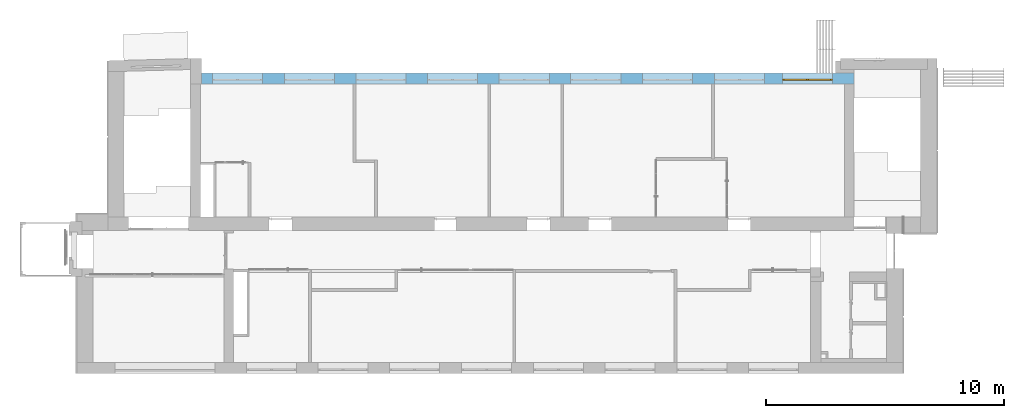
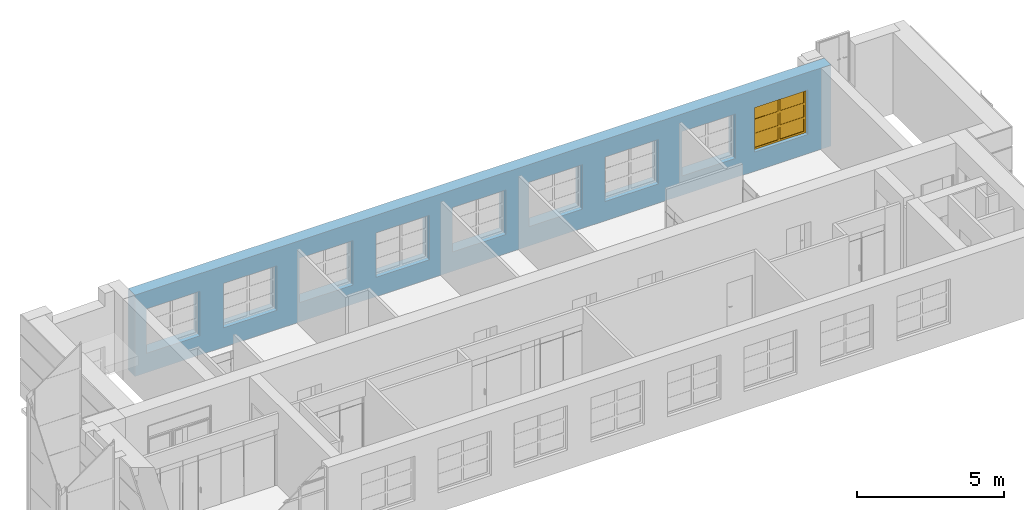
# One storey, part 55 of 66: 1 window, 9 openings, plus 1 element that does not belong to this part.
"""IFC2X3 building model written with IfcOpenShell, lengths in millimetres."""

from ifc_helpers import new_model, entity, si_unit, converted_unit, derived_unit, direction, frame, frame_2d, origin, origin_2d_with_axis, place, context, subcontext, project, spatial, rectangle, extrude, face_set, surface_model, source, transform, mapped, material, material_list, layer, layer_set, layer_usage, type_object, type_shapes, element, fill, save


model = new_model("IFC2X3")

# Units and contexts
model_context = context("Model", 3, precision=0.01, world=origin(), true_north=direction((6.12303176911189e-17, 1.0)))
body_context = subcontext(model_context, "Body", "Model", "MODEL_VIEW")
ifc_project = project(units=[si_unit("LENGTHUNIT", "METRE", prefix="MILLI"), si_unit("AREAUNIT", "SQUARE_METRE"), si_unit("VOLUMEUNIT", "CUBIC_METRE"), converted_unit("PLANEANGLEUNIT", "DEGREE", entity("IfcRatioMeasure", 0.0174532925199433), si_unit("PLANEANGLEUNIT", "RADIAN"), dimensions=[0, 0, 0, 0, 0, 0, 0]), si_unit("MASSUNIT", "GRAM", prefix="KILO"), derived_unit("MASSDENSITYUNIT", [(si_unit("MASSUNIT", "GRAM", prefix="KILO"), 1), (si_unit("LENGTHUNIT", "METRE"), -3)]), si_unit("TIMEUNIT", "SECOND"), si_unit("FREQUENCYUNIT", "HERTZ"), si_unit("THERMODYNAMICTEMPERATUREUNIT", "DEGREE_CELSIUS"), derived_unit("THERMALTRANSMITTANCEUNIT", [(si_unit("MASSUNIT", "GRAM", prefix="KILO"), 1), (si_unit("THERMODYNAMICTEMPERATUREUNIT", "KELVIN"), -1), (si_unit("TIMEUNIT", "SECOND"), -3)]), derived_unit("VOLUMETRICFLOWRATEUNIT", [(si_unit("LENGTHUNIT", "METRE"), 3), (si_unit("TIMEUNIT", "SECOND"), -1)]), si_unit("ELECTRICCURRENTUNIT", "AMPERE"), si_unit("ELECTRICVOLTAGEUNIT", "VOLT"), si_unit("POWERUNIT", "WATT"), si_unit("FORCEUNIT", "NEWTON", prefix="KILO"), si_unit("ILLUMINANCEUNIT", "LUX"), si_unit("LUMINOUSFLUXUNIT", "LUMEN"), si_unit("LUMINOUSINTENSITYUNIT", "CANDELA"), derived_unit("USERDEFINED", [(si_unit("MASSUNIT", "GRAM", prefix="KILO"), -1), (si_unit("LENGTHUNIT", "METRE"), -2), (si_unit("TIMEUNIT", "SECOND"), 3), (si_unit("LUMINOUSFLUXUNIT", "LUMEN"), 1)]), derived_unit("LINEARVELOCITYUNIT", [(si_unit("LENGTHUNIT", "METRE"), 1), (si_unit("TIMEUNIT", "SECOND"), -1)]), si_unit("PRESSUREUNIT", "PASCAL"), derived_unit("USERDEFINED", [(si_unit("LENGTHUNIT", "METRE"), -2), (si_unit("MASSUNIT", "GRAM", prefix="KILO"), 1), (si_unit("TIMEUNIT", "SECOND"), -2)])], contexts=[model_context])

# Site, building, storey
site_placement = place(None, frame((-151.875543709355, 2715.0, 0.0)))
site = spatial("IfcSite", under=ifc_project, at=site_placement, Name="Surface", CompositionType="ELEMENT")
building_placement = place(site_placement, origin())
building = spatial("IfcBuilding", under=site, at=building_placement, CompositionType="ELEMENT")
storey_placement = place(building_placement, frame((0.0, 0.0, 3350.0)))
storey = spatial("IfcBuildingStorey", under=building, at=storey_placement, Name="2 korrus", CompositionType="ELEMENT", Elevation=3350.00000000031)

# Wall, openings, window
ifc_material_1 = material(Name="Brick, Common")
ifc_layer_1 = layer(ifc_material_1, 440.0)
ifc_material_2 = material(Name="__Kips GN13_tava")
ifc_layer_2 = layer(ifc_material_2, 20.0)
ifc_layer_set = layer_set([ifc_layer_1, ifc_layer_2], Name="Basic Wall:VS-1")
ifc_layer_usage = layer_usage(ifc_layer_set, "AXIS2", "POSITIVE", -230.0)
wall_type = type_object("IfcWallType", Name="Basic Wall:VS-1", PredefinedType="STANDARD", material=ifc_layer_set)
wall_placement = place(storey_placement, frame((32372.6162682, 12380.0, 0.0), z_axis=(0.0, 0.0, 1.0), x_axis=(-1.0, 0.0, 0.0)))
wall = element("IfcWallStandardCase", 1, at=wall_placement, inside=storey, type_object=wall_type, material=ifc_layer_usage, Name="SEIN - 005", ObjectType="Basic Wall:VS-1", context=body_context, shape_type="SweptSolid", body=[
    extrude(rectangle(XDim=27372.5418693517, YDim=459.999999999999, at=frame_2d((13686.2709346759, 0.0), x_axis=(-1.0, 0.0))), origin(), (0.0, 0.0, 1.0), 3380.43203354),
])
opening_1_placement = place(wall_placement, frame((32372.6162682, 12380.0, 0.0), z_axis=(0.0, 0.0, 1.0), x_axis=(-1.0, 0.0, 0.0)))
element("IfcOpeningElement", 2, at=opening_1_placement, cuts=wall, Name="SEIN - 005", ObjectType="Opening", context=body_context, shape_type="SweptSolid", body=[
    extrude(rectangle(XDim=1850.0, YDim=2100.0, at=frame_2d((0.0, -5.6843418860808e-13), x_axis=(1.0, 0.0))), frame((6512.84935535, 13077.9, 1725.0), z_axis=(0.0, -1.0, 0.0), x_axis=(0.0, 0.0, 1.0)), (0.0, 0.0, 1.0), 1393.8),
])
opening_2_placement = place(wall_placement, frame((32372.6162682, 12380.0, 0.0), z_axis=(0.0, 0.0, 1.0), x_axis=(-1.0, 0.0, 0.0)))
element("IfcOpeningElement", 3, at=opening_2_placement, cuts=wall, Name="SEIN - 005", ObjectType="Opening", context=body_context, shape_type="SweptSolid", body=[
    extrude(rectangle(XDim=1850.0, YDim=2100.0, at=frame_2d((0.0, -1.02318153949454e-12), x_axis=(1.0, 0.0))), frame((9532.84935535, 13077.9, 1725.0), z_axis=(0.0, -1.0, 0.0), x_axis=(0.0, 0.0, 1.0)), (0.0, 0.0, 1.0), 1393.8),
])
opening_3_placement = place(wall_placement, frame((32372.6162682, 12380.0, 0.0), z_axis=(0.0, 0.0, 1.0), x_axis=(-1.0, 0.0, 0.0)))
element("IfcOpeningElement", 4, at=opening_3_placement, cuts=wall, Name="SEIN - 005", ObjectType="Opening", context=body_context, shape_type="SweptSolid", body=[
    extrude(rectangle(XDim=1850.0, YDim=2100.0, at=origin_2d_with_axis()), frame((12532.84935535, 13077.9, 1725.0), z_axis=(0.0, -1.0, 0.0), x_axis=(0.0, 0.0, 1.0)), (0.0, 0.0, 1.0), 1393.8),
])
opening_4_placement = place(wall_placement, frame((32372.6162682, 12380.0, 0.0), z_axis=(0.0, 0.0, 1.0), x_axis=(-1.0, 0.0, 0.0)))
element("IfcOpeningElement", 5, at=opening_4_placement, cuts=wall, Name="SEIN - 005", ObjectType="Opening", context=body_context, shape_type="SweptSolid", body=[
    extrude(rectangle(XDim=1850.0, YDim=2100.0, at=origin_2d_with_axis()), frame((15532.84935531, 13077.9, 1725.0), z_axis=(0.0, -1.0, 0.0), x_axis=(0.0, 0.0, 1.0)), (0.0, 0.0, 1.0), 1393.8),
])
opening_5_placement = place(wall_placement, frame((32372.6162682, 12380.0, 0.0), z_axis=(0.0, 0.0, 1.0), x_axis=(-1.0, 0.0, 0.0)))
element("IfcOpeningElement", 6, at=opening_5_placement, cuts=wall, Name="SEIN - 005", ObjectType="Opening", context=body_context, shape_type="SweptSolid", body=[
    extrude(rectangle(XDim=1850.0, YDim=2100.0, at=origin_2d_with_axis()), frame((18542.84935531, 13077.9, 1725.0), z_axis=(0.0, -1.0, 0.0), x_axis=(0.0, 0.0, 1.0)), (0.0, 0.0, 1.0), 1393.8),
])
opening_6_placement = place(wall_placement, frame((32372.6162682, 12380.0, 0.0), z_axis=(0.0, 0.0, 1.0), x_axis=(-1.0, 0.0, 0.0)))
element("IfcOpeningElement", 7, at=opening_6_placement, cuts=wall, Name="SEIN - 005", ObjectType="Opening", context=body_context, shape_type="SweptSolid", body=[
    extrude(rectangle(XDim=1850.0, YDim=2100.0, at=origin_2d_with_axis()), frame((21543.05309771, 13077.9, 1725.0), z_axis=(0.0, -1.0, 0.0), x_axis=(0.0, 0.0, 1.0)), (0.0, 0.0, 1.0), 1393.8),
])
opening_7_placement = place(wall_placement, frame((32372.6162682, 12380.0, 0.0), z_axis=(0.0, 0.0, 1.0), x_axis=(-1.0, 0.0, 0.0)))
element("IfcOpeningElement", 8, at=opening_7_placement, cuts=wall, Name="SEIN - 005", ObjectType="Opening", context=body_context, shape_type="SweptSolid", body=[
    extrude(rectangle(XDim=1850.0, YDim=2100.0, at=origin_2d_with_axis()), frame((24543.05309771, 13077.9, 1725.0), z_axis=(0.0, -1.0, 0.0), x_axis=(0.0, 0.0, 1.0)), (0.0, 0.0, 1.0), 1393.8),
])
opening_8_placement = place(wall_placement, frame((32372.6162682, 12380.0, 0.0), z_axis=(0.0, 0.0, 1.0), x_axis=(-1.0, 0.0, 0.0)))
element("IfcOpeningElement", 9, at=opening_8_placement, cuts=wall, Name="SEIN - 005", ObjectType="Opening", context=body_context, shape_type="SweptSolid", body=[
    extrude(rectangle(XDim=1850.0, YDim=2100.0, at=frame_2d((0.0, 4.32009983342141e-12), x_axis=(1.0, 0.0))), frame((27563.05309771, 13077.9, 1725.0), z_axis=(0.0, -1.0, 0.0), x_axis=(0.0, 0.0, 1.0)), (0.0, 0.0, 1.0), 1393.8),
])
opening_9_placement = place(wall_placement, frame((32372.6162682, 12380.0, 0.0), z_axis=(0.0, 0.0, 1.0), x_axis=(-1.0, 0.0, 0.0)))
opening_9 = element("IfcOpeningElement", 10, at=opening_9_placement, cuts=wall, Name="SEIN - 005", ObjectType="Opening", context=body_context, shape_type="SweptSolid", body=[
    extrude(rectangle(XDim=1850.0, YDim=2100.0, at=origin_2d_with_axis()), frame((30412.57293081, 13077.9, 1725.0), z_axis=(0.0, -1.0, 0.0), x_axis=(0.0, 0.0, 1.0)), (0.0, 0.0, 1.0), 1393.8),
])
ifc_material_3 = material(Name="Paint - Titanium White")
ifc_material_4 = material(Name="Paint - Dark Gray")
ifc_material_5 = material(Name="Glass - Clear Fast")
ifc_material_list_1 = material_list([ifc_material_3, ifc_material_4, ifc_material_5])
ifc_material_list_2 = material_list([ifc_material_3, ifc_material_4, ifc_material_5])
window_style = type_object("IfcWindowStyle", Name="Aken_1850x2100", ConstructionType="NOTDEFINED", OperationType="DOUBLE_PANEL_VERTICAL", ParameterTakesPrecedence=False, Sizeable=False, material=ifc_material_list_2)
shared_shape = source(origin(), body_context, "Body", "SurfaceModel", [
    surface_model("IfcFaceBasedSurfaceModel", [(80.0, -665.9, 1770.0), (80.0, -620.9, 1770.0), (0.0, -620.9, 1770.0), (0.0, -665.9, 1770.0), (80.0, -665.9, 80.0), (80.0, -620.9, 80.0), (80.0, -620.9, 1770.0), (80.0, -665.9, 1770.0), (80.0, -620.9, 1770.0), (80.0, -620.9, 80.0), (0.0, -620.9, 80.0), (0.0, -620.9, 1770.0), (0.0, -665.9, 1770.0), (0.0, -620.9, 1770.0), (0.0, -620.9, 80.0), (0.0, -665.9, 80.0), (80.0, -665.9, 1770.0), (0.0, -665.9, 1770.0), (0.0, -665.9, 80.0), (80.0, -665.9, 80.0), (0.0, -665.9, 80.0), (0.0, -620.9, 80.0), (80.0, -620.9, 80.0), (80.0, -665.9, 80.0), (2020.0, -665.9, 80.0), (2020.0, -620.9, 80.0), (2100.0, -620.9, 80.0), (2100.0, -665.9, 80.0), (2020.0, -665.9, 1770.0), (2020.0, -620.9, 1770.0), (2020.0, -620.9, 80.0), (2020.0, -665.9, 80.0), (2020.0, -620.9, 80.0), (2020.0, -620.9, 1770.0), (2100.0, -620.9, 1770.0), (2100.0, -620.9, 80.0), (2100.0, -665.9, 80.0), (2100.0, -620.9, 80.0), (2100.0, -620.9, 1770.0), (2100.0, -665.9, 1770.0), (2020.0, -665.9, 80.0), (2100.0, -665.9, 80.0), (2100.0, -665.9, 1770.0), (2020.0, -665.9, 1770.0), (2100.0, -665.9, 1770.0), (2100.0, -620.9, 1770.0), (2020.0, -620.9, 1770.0), (2020.0, -665.9, 1770.0), (1010.0, -665.9, 80.0), (1010.0, -620.9, 80.0), (1090.0, -620.9, 80.0), (1090.0, -665.9, 80.0), (1010.0, -665.9, 1770.0), (1010.0, -620.9, 1770.0), (1010.0, -620.9, 80.0), (1010.0, -665.9, 80.0), (1010.0, -620.9, 80.0), (1010.0, -620.9, 1770.0), (1090.0, -620.9, 1770.0), (1090.0, -620.9, 80.0), (1090.0, -665.9, 80.0), (1090.0, -620.9, 80.0), (1090.0, -620.9, 1770.0), (1090.0, -665.9, 1770.0), (1010.0, -665.9, 80.0), (1090.0, -665.9, 80.0), (1090.0, -665.9, 1770.0), (1010.0, -665.9, 1770.0), (1090.0, -665.9, 1770.0), (1090.0, -620.9, 1770.0), (1010.0, -620.9, 1770.0), (1010.0, -665.9, 1770.0), (80.0, -665.9, 80.0), (80.0, -620.9, 80.0), (0.0, -620.9, 80.0), (0.0, -665.9, 80.0), (1010.0, -665.9, 80.0), (1010.0, -620.9, 80.0), (80.0, -620.9, 80.0), (80.0, -665.9, 80.0), (80.0, -620.9, 80.0), (1010.0, -620.9, 80.0), (1090.0, -620.9, 80.0), (2020.0, -620.9, 80.0), (2100.0, -620.9, 80.0), (2100.0, -620.9, 0.0), (0.0, -620.9, 0.0), (0.0, -620.9, 80.0), (0.0, -665.9, 80.0), (0.0, -620.9, 80.0), (0.0, -620.9, 0.0), (0.0, -665.9, 0.0), (80.0, -665.9, 80.0), (0.0, -665.9, 80.0), (0.0, -665.9, 0.0), (2100.0, -665.9, 0.0), (2100.0, -665.9, 80.0), (2020.0, -665.9, 80.0), (1090.0, -665.9, 80.0), (1010.0, -665.9, 80.0), (1090.0, -665.9, 80.0), (1090.0, -620.9, 80.0), (1010.0, -620.9, 80.0), (1010.0, -665.9, 80.0), (2020.0, -665.9, 80.0), (2020.0, -620.9, 80.0), (1090.0, -620.9, 80.0), (1090.0, -665.9, 80.0), (2100.0, -665.9, 80.0), (2100.0, -620.9, 80.0), (2020.0, -620.9, 80.0), (2020.0, -665.9, 80.0), (2100.0, -665.9, 0.0), (2100.0, -620.9, 0.0), (2100.0, -620.9, 80.0), (2100.0, -665.9, 80.0), (0.0, -665.9, 0.0), (0.0, -620.9, 0.0), (2100.0, -620.9, 0.0), (2100.0, -665.9, 0.0), (1010.0, -665.9, 1770.0), (1010.0, -620.9, 1770.0), (1090.0, -620.9, 1770.0), (1090.0, -665.9, 1770.0), (80.0, -665.9, 1770.0), (80.0, -620.9, 1770.0), (1010.0, -620.9, 1770.0), (1010.0, -665.9, 1770.0), (1010.0, -620.9, 1770.0), (80.0, -620.9, 1770.0), (0.0, -620.9, 1770.0), (0.0, -620.9, 1850.0), (2100.0, -620.9, 1850.0), (2100.0, -620.9, 1770.0), (2020.0, -620.9, 1770.0), (1090.0, -620.9, 1770.0), (1090.0, -665.9, 1770.0), (1090.0, -620.9, 1770.0), (2020.0, -620.9, 1770.0), (2020.0, -665.9, 1770.0), (1010.0, -665.9, 1770.0), (1090.0, -665.9, 1770.0), (2020.0, -665.9, 1770.0), (2100.0, -665.9, 1770.0), (2100.0, -665.9, 1850.0), (0.0, -665.9, 1850.0), (0.0, -665.9, 1770.0), (80.0, -665.9, 1770.0), (0.0, -665.9, 1770.0), (0.0, -620.9, 1770.0), (80.0, -620.9, 1770.0), (80.0, -665.9, 1770.0), (0.0, -665.9, 1850.0), (0.0, -620.9, 1850.0), (0.0, -620.9, 1770.0), (0.0, -665.9, 1770.0), (2100.0, -665.9, 1850.0), (2100.0, -620.9, 1850.0), (0.0, -620.9, 1850.0), (0.0, -665.9, 1850.0), (2100.0, -665.9, 1770.0), (2100.0, -620.9, 1770.0), (2100.0, -620.9, 1850.0), (2100.0, -665.9, 1850.0), (2020.0, -665.9, 1770.0), (2020.0, -620.9, 1770.0), (2100.0, -620.9, 1770.0), (2100.0, -665.9, 1770.0), (80.0, -640.9, 590.0), (80.0, -630.9, 590.0), (1010.0, -630.9, 590.0), (1010.0, -640.9, 590.0), (80.0, -640.9, 670.0), (80.0, -630.9, 670.0), (80.0, -630.9, 590.0), (80.0, -640.9, 590.0), (80.0, -630.9, 590.0), (80.0, -630.9, 670.0), (1010.0, -630.9, 670.0), (1010.0, -630.9, 590.0), (1010.0, -640.9, 590.0), (1010.0, -630.9, 590.0), (1010.0, -630.9, 670.0), (1010.0, -640.9, 670.0), (80.0, -640.9, 590.0), (1010.0, -640.9, 590.0), (1010.0, -640.9, 670.0), (80.0, -640.9, 670.0), (1010.0, -640.9, 670.0), (1010.0, -630.9, 670.0), (80.0, -630.9, 670.0), (80.0, -640.9, 670.0), (80.0, -640.9, 1180.0), (80.0, -630.9, 1180.0), (1010.0, -630.9, 1180.0), (1010.0, -640.9, 1180.0), (80.0, -640.9, 1260.0), (80.0, -630.9, 1260.0), (80.0, -630.9, 1180.0), (80.0, -640.9, 1180.0), (80.0, -630.9, 1180.0), (80.0, -630.9, 1260.0), (1010.0, -630.9, 1260.0), (1010.0, -630.9, 1180.0), (1010.0, -640.9, 1180.0), (1010.0, -630.9, 1180.0), (1010.0, -630.9, 1260.0), (1010.0, -640.9, 1260.0), (80.0, -640.9, 1180.0), (1010.0, -640.9, 1180.0), (1010.0, -640.9, 1260.0), (80.0, -640.9, 1260.0), (1010.0, -640.9, 1260.0), (1010.0, -630.9, 1260.0), (80.0, -630.9, 1260.0), (80.0, -640.9, 1260.0), (1090.0, -640.9, 590.0), (1090.0, -630.9, 590.0), (2020.0, -630.9, 590.0), (2020.0, -640.9, 590.0), (1090.0, -640.9, 670.0), (1090.0, -630.9, 670.0), (1090.0, -630.9, 590.0), (1090.0, -640.9, 590.0), (1090.0, -630.9, 590.0), (1090.0, -630.9, 670.0), (2020.0, -630.9, 670.0), (2020.0, -630.9, 590.0), (2020.0, -640.9, 590.0), (2020.0, -630.9, 590.0), (2020.0, -630.9, 670.0), (2020.0, -640.9, 670.0), (1090.0, -640.9, 590.0), (2020.0, -640.9, 590.0), (2020.0, -640.9, 670.0), (1090.0, -640.9, 670.0), (2020.0, -640.9, 670.0), (2020.0, -630.9, 670.0), (1090.0, -630.9, 670.0), (1090.0, -640.9, 670.0), (1090.0, -640.9, 1180.0), (1090.0, -630.9, 1180.0), (2020.0, -630.9, 1180.0), (2020.0, -640.9, 1180.0), (1090.0, -640.9, 1260.0), (1090.0, -630.9, 1260.0), (1090.0, -630.9, 1180.0), (1090.0, -640.9, 1180.0), (1090.0, -630.9, 1180.0), (1090.0, -630.9, 1260.0), (2020.0, -630.9, 1260.0), (2020.0, -630.9, 1180.0), (2020.0, -640.9, 1180.0), (2020.0, -630.9, 1180.0), (2020.0, -630.9, 1260.0), (2020.0, -640.9, 1260.0), (1090.0, -640.9, 1180.0), (2020.0, -640.9, 1180.0), (2020.0, -640.9, 1260.0), (1090.0, -640.9, 1260.0), (2020.0, -640.9, 1260.0), (2020.0, -630.9, 1260.0), (1090.0, -630.9, 1260.0), (1090.0, -640.9, 1260.0)], [face_set([[[0, 1, 2, 3]]]), face_set([[[4, 5, 6, 7]]]), face_set([[[8, 9, 10, 11]]]), face_set([[[12, 13, 14, 15]]]), face_set([[[16, 17, 18, 19]]]), face_set([[[20, 21, 22, 23]]]), face_set([[[24, 25, 26, 27]]]), face_set([[[28, 29, 30, 31]]]), face_set([[[32, 33, 34, 35]]]), face_set([[[36, 37, 38, 39]]]), face_set([[[40, 41, 42, 43]]]), face_set([[[44, 45, 46, 47]]]), face_set([[[48, 49, 50, 51]]]), face_set([[[52, 53, 54, 55]]]), face_set([[[56, 57, 58, 59]]]), face_set([[[60, 61, 62, 63]]]), face_set([[[64, 65, 66, 67]]]), face_set([[[68, 69, 70, 71]]]), face_set([[[72, 73, 74, 75]]]), face_set([[[76, 77, 78, 79]]]), face_set([[[80, 81, 82, 83, 84, 85, 86, 87]]]), face_set([[[88, 89, 90, 91]]]), face_set([[[92, 93, 94, 95, 96, 97, 98, 99]]]), face_set([[[100, 101, 102, 103]]]), face_set([[[104, 105, 106, 107]]]), face_set([[[108, 109, 110, 111]]]), face_set([[[112, 113, 114, 115]]]), face_set([[[116, 117, 118, 119]]]), face_set([[[120, 121, 122, 123]]]), face_set([[[124, 125, 126, 127]]]), face_set([[[128, 129, 130, 131, 132, 133, 134, 135]]]), face_set([[[136, 137, 138, 139]]]), face_set([[[140, 141, 142, 143, 144, 145, 146, 147]]]), face_set([[[148, 149, 150, 151]]]), face_set([[[152, 153, 154, 155]]]), face_set([[[156, 157, 158, 159]]]), face_set([[[160, 161, 162, 163]]]), face_set([[[164, 165, 166, 167]]]), face_set([[[168, 169, 170, 171]]]), face_set([[[172, 173, 174, 175]]]), face_set([[[176, 177, 178, 179]]]), face_set([[[180, 181, 182, 183]]]), face_set([[[184, 185, 186, 187]]]), face_set([[[188, 189, 190, 191]]]), face_set([[[192, 193, 194, 195]]]), face_set([[[196, 197, 198, 199]]]), face_set([[[200, 201, 202, 203]]]), face_set([[[204, 205, 206, 207]]]), face_set([[[208, 209, 210, 211]]]), face_set([[[212, 213, 214, 215]]]), face_set([[[216, 217, 218, 219]]]), face_set([[[220, 221, 222, 223]]]), face_set([[[224, 225, 226, 227]]]), face_set([[[228, 229, 230, 231]]]), face_set([[[232, 233, 234, 235]]]), face_set([[[236, 237, 238, 239]]]), face_set([[[240, 241, 242, 243]]]), face_set([[[244, 245, 246, 247]]]), face_set([[[248, 249, 250, 251]]]), face_set([[[252, 253, 254, 255]]]), face_set([[[256, 257, 258, 259]]]), face_set([[[260, 261, 262, 263]]])]),
    surface_model("IfcFaceBasedSurfaceModel", [(80.0, -620.9, 1770.0), (80.0, -595.9, 1770.0), (0.0, -595.9, 1770.0), (0.0, -620.9, 1770.0), (80.0, -620.9, 80.0), (80.0, -595.9, 80.0), (80.0, -595.9, 1770.0), (80.0, -620.9, 1770.0), (80.0, -595.9, 1770.0), (80.0, -595.9, 80.0), (0.0, -595.9, 80.0), (0.0, -595.9, 1770.0), (0.0, -620.9, 1770.0), (0.0, -595.9, 1770.0), (0.0, -595.9, 80.0), (0.0, -620.9, 80.0), (80.0, -620.9, 1770.0), (0.0, -620.9, 1770.0), (0.0, -620.9, 80.0), (80.0, -620.9, 80.0), (0.0, -620.9, 80.0), (0.0, -595.9, 80.0), (80.0, -595.9, 80.0), (80.0, -620.9, 80.0), (2020.0, -620.9, 80.0), (2020.0, -595.9, 80.0), (2100.0, -595.9, 80.0), (2100.0, -620.9, 80.0), (2020.0, -620.9, 1770.0), (2020.0, -595.9, 1770.0), (2020.0, -595.9, 80.0), (2020.0, -620.9, 80.0), (2020.0, -595.9, 80.0), (2020.0, -595.9, 1770.0), (2100.0, -595.9, 1770.0), (2100.0, -595.9, 80.0), (2100.0, -620.9, 80.0), (2100.0, -595.9, 80.0), (2100.0, -595.9, 1770.0), (2100.0, -620.9, 1770.0), (2020.0, -620.9, 80.0), (2100.0, -620.9, 80.0), (2100.0, -620.9, 1770.0), (2020.0, -620.9, 1770.0), (2100.0, -620.9, 1770.0), (2100.0, -595.9, 1770.0), (2020.0, -595.9, 1770.0), (2020.0, -620.9, 1770.0), (1010.0, -620.9, 80.0), (1010.0, -595.9, 80.0), (1090.0, -595.9, 80.0), (1090.0, -620.9, 80.0), (1010.0, -620.9, 1770.0), (1010.0, -595.9, 1770.0), (1010.0, -595.9, 80.0), (1010.0, -620.9, 80.0), (1010.0, -595.9, 80.0), (1010.0, -595.9, 1770.0), (1090.0, -595.9, 1770.0), (1090.0, -595.9, 80.0), (1090.0, -620.9, 80.0), (1090.0, -595.9, 80.0), (1090.0, -595.9, 1770.0), (1090.0, -620.9, 1770.0), (1010.0, -620.9, 80.0), (1090.0, -620.9, 80.0), (1090.0, -620.9, 1770.0), (1010.0, -620.9, 1770.0), (1090.0, -620.9, 1770.0), (1090.0, -595.9, 1770.0), (1010.0, -595.9, 1770.0), (1010.0, -620.9, 1770.0), (80.0, -620.9, 80.0), (80.0, -595.9, 80.0), (0.0, -595.9, 80.0), (0.0, -620.9, 80.0), (1010.0, -620.9, 80.0), (1010.0, -595.9, 80.0), (80.0, -595.9, 80.0), (80.0, -620.9, 80.0), (80.0, -595.9, 80.0), (1010.0, -595.9, 80.0), (1090.0, -595.9, 80.0), (2020.0, -595.9, 80.0), (2100.0, -595.9, 80.0), (2100.0, -595.9, 0.0), (0.0, -595.9, 0.0), (0.0, -595.9, 80.0), (0.0, -620.9, 80.0), (0.0, -595.9, 80.0), (0.0, -595.9, 0.0), (0.0, -620.9, 0.0), (80.0, -620.9, 80.0), (0.0, -620.9, 80.0), (0.0, -620.9, 0.0), (2100.0, -620.9, 0.0), (2100.0, -620.9, 80.0), (2020.0, -620.9, 80.0), (1090.0, -620.9, 80.0), (1010.0, -620.9, 80.0), (1090.0, -620.9, 80.0), (1090.0, -595.9, 80.0), (1010.0, -595.9, 80.0), (1010.0, -620.9, 80.0), (2020.0, -620.9, 80.0), (2020.0, -595.9, 80.0), (1090.0, -595.9, 80.0), (1090.0, -620.9, 80.0), (2100.0, -620.9, 80.0), (2100.0, -595.9, 80.0), (2020.0, -595.9, 80.0), (2020.0, -620.9, 80.0), (2100.0, -620.9, 0.0), (2100.0, -595.9, 0.0), (2100.0, -595.9, 80.0), (2100.0, -620.9, 80.0), (0.0, -620.9, 0.0), (0.0, -595.9, 0.0), (2100.0, -595.9, 0.0), (2100.0, -620.9, 0.0), (1010.0, -620.9, 1770.0), (1010.0, -595.9, 1770.0), (1090.0, -595.9, 1770.0), (1090.0, -620.9, 1770.0), (80.0, -620.9, 1770.0), (80.0, -595.9, 1770.0), (1010.0, -595.9, 1770.0), (1010.0, -620.9, 1770.0), (1010.0, -595.9, 1770.0), (80.0, -595.9, 1770.0), (0.0, -595.9, 1770.0), (0.0, -595.9, 1850.0), (2100.0, -595.9, 1850.0), (2100.0, -595.9, 1770.0), (2020.0, -595.9, 1770.0), (1090.0, -595.9, 1770.0), (1090.0, -620.9, 1770.0), (1090.0, -595.9, 1770.0), (2020.0, -595.9, 1770.0), (2020.0, -620.9, 1770.0), (1010.0, -620.9, 1770.0), (1090.0, -620.9, 1770.0), (2020.0, -620.9, 1770.0), (2100.0, -620.9, 1770.0), (2100.0, -620.9, 1850.0), (0.0, -620.9, 1850.0), (0.0, -620.9, 1770.0), (80.0, -620.9, 1770.0), (0.0, -620.9, 1770.0), (0.0, -595.9, 1770.0), (80.0, -595.9, 1770.0), (80.0, -620.9, 1770.0), (0.0, -620.9, 1850.0), (0.0, -595.9, 1850.0), (0.0, -595.9, 1770.0), (0.0, -620.9, 1770.0), (2100.0, -620.9, 1850.0), (2100.0, -595.9, 1850.0), (0.0, -595.9, 1850.0), (0.0, -620.9, 1850.0), (2100.0, -620.9, 1770.0), (2100.0, -595.9, 1770.0), (2100.0, -595.9, 1850.0), (2100.0, -620.9, 1850.0), (2020.0, -620.9, 1770.0), (2020.0, -595.9, 1770.0), (2100.0, -595.9, 1770.0), (2100.0, -620.9, 1770.0), (80.0, -630.9, 590.0), (80.0, -600.9, 590.0), (1010.0, -600.9, 590.0), (1010.0, -630.9, 590.0), (80.0, -630.9, 670.0), (80.0, -600.9, 670.0), (80.0, -600.9, 590.0), (80.0, -630.9, 590.0), (80.0, -600.9, 590.0), (80.0, -600.9, 670.0), (1010.0, -600.9, 670.0), (1010.0, -600.9, 590.0), (1010.0, -630.9, 590.0), (1010.0, -600.9, 590.0), (1010.0, -600.9, 670.0), (1010.0, -630.9, 670.0), (80.0, -630.9, 590.0), (1010.0, -630.9, 590.0), (1010.0, -630.9, 670.0), (80.0, -630.9, 670.0), (1010.0, -630.9, 670.0), (1010.0, -600.9, 670.0), (80.0, -600.9, 670.0), (80.0, -630.9, 670.0), (80.0, -630.9, 1180.0), (80.0, -600.9, 1180.0), (1010.0, -600.9, 1180.0), (1010.0, -630.9, 1180.0), (80.0, -630.9, 1260.0), (80.0, -600.9, 1260.0), (80.0, -600.9, 1180.0), (80.0, -630.9, 1180.0), (80.0, -600.9, 1180.0), (80.0, -600.9, 1260.0), (1010.0, -600.9, 1260.0), (1010.0, -600.9, 1180.0), (1010.0, -630.9, 1180.0), (1010.0, -600.9, 1180.0), (1010.0, -600.9, 1260.0), (1010.0, -630.9, 1260.0), (80.0, -630.9, 1180.0), (1010.0, -630.9, 1180.0), (1010.0, -630.9, 1260.0), (80.0, -630.9, 1260.0), (1010.0, -630.9, 1260.0), (1010.0, -600.9, 1260.0), (80.0, -600.9, 1260.0), (80.0, -630.9, 1260.0), (1090.0, -630.9, 590.0), (1090.0, -600.9, 590.0), (2020.0, -600.9, 590.0), (2020.0, -630.9, 590.0), (1090.0, -630.9, 670.0), (1090.0, -600.9, 670.0), (1090.0, -600.9, 590.0), (1090.0, -630.9, 590.0), (1090.0, -600.9, 590.0), (1090.0, -600.9, 670.0), (2020.0, -600.9, 670.0), (2020.0, -600.9, 590.0), (2020.0, -630.9, 590.0), (2020.0, -600.9, 590.0), (2020.0, -600.9, 670.0), (2020.0, -630.9, 670.0), (1090.0, -630.9, 590.0), (2020.0, -630.9, 590.0), (2020.0, -630.9, 670.0), (1090.0, -630.9, 670.0), (2020.0, -630.9, 670.0), (2020.0, -600.9, 670.0), (1090.0, -600.9, 670.0), (1090.0, -630.9, 670.0), (1090.0, -630.9, 1180.0), (1090.0, -600.9, 1180.0), (2020.0, -600.9, 1180.0), (2020.0, -630.9, 1180.0), (1090.0, -630.9, 1260.0), (1090.0, -600.9, 1260.0), (1090.0, -600.9, 1180.0), (1090.0, -630.9, 1180.0), (1090.0, -600.9, 1180.0), (1090.0, -600.9, 1260.0), (2020.0, -600.9, 1260.0), (2020.0, -600.9, 1180.0), (2020.0, -630.9, 1180.0), (2020.0, -600.9, 1180.0), (2020.0, -600.9, 1260.0), (2020.0, -630.9, 1260.0), (1090.0, -630.9, 1180.0), (2020.0, -630.9, 1180.0), (2020.0, -630.9, 1260.0), (1090.0, -630.9, 1260.0), (2020.0, -630.9, 1260.0), (2020.0, -600.9, 1260.0), (1090.0, -600.9, 1260.0), (1090.0, -630.9, 1260.0)], [face_set([[[0, 1, 2, 3]]]), face_set([[[4, 5, 6, 7]]]), face_set([[[8, 9, 10, 11]]]), face_set([[[12, 13, 14, 15]]]), face_set([[[16, 17, 18, 19]]]), face_set([[[20, 21, 22, 23]]]), face_set([[[24, 25, 26, 27]]]), face_set([[[28, 29, 30, 31]]]), face_set([[[32, 33, 34, 35]]]), face_set([[[36, 37, 38, 39]]]), face_set([[[40, 41, 42, 43]]]), face_set([[[44, 45, 46, 47]]]), face_set([[[48, 49, 50, 51]]]), face_set([[[52, 53, 54, 55]]]), face_set([[[56, 57, 58, 59]]]), face_set([[[60, 61, 62, 63]]]), face_set([[[64, 65, 66, 67]]]), face_set([[[68, 69, 70, 71]]]), face_set([[[72, 73, 74, 75]]]), face_set([[[76, 77, 78, 79]]]), face_set([[[80, 81, 82, 83, 84, 85, 86, 87]]]), face_set([[[88, 89, 90, 91]]]), face_set([[[92, 93, 94, 95, 96, 97, 98, 99]]]), face_set([[[100, 101, 102, 103]]]), face_set([[[104, 105, 106, 107]]]), face_set([[[108, 109, 110, 111]]]), face_set([[[112, 113, 114, 115]]]), face_set([[[116, 117, 118, 119]]]), face_set([[[120, 121, 122, 123]]]), face_set([[[124, 125, 126, 127]]]), face_set([[[128, 129, 130, 131, 132, 133, 134, 135]]]), face_set([[[136, 137, 138, 139]]]), face_set([[[140, 141, 142, 143, 144, 145, 146, 147]]]), face_set([[[148, 149, 150, 151]]]), face_set([[[152, 153, 154, 155]]]), face_set([[[156, 157, 158, 159]]]), face_set([[[160, 161, 162, 163]]]), face_set([[[164, 165, 166, 167]]]), face_set([[[168, 169, 170, 171]]]), face_set([[[172, 173, 174, 175]]]), face_set([[[176, 177, 178, 179]]]), face_set([[[180, 181, 182, 183]]]), face_set([[[184, 185, 186, 187]]]), face_set([[[188, 189, 190, 191]]]), face_set([[[192, 193, 194, 195]]]), face_set([[[196, 197, 198, 199]]]), face_set([[[200, 201, 202, 203]]]), face_set([[[204, 205, 206, 207]]]), face_set([[[208, 209, 210, 211]]]), face_set([[[212, 213, 214, 215]]]), face_set([[[216, 217, 218, 219]]]), face_set([[[220, 221, 222, 223]]]), face_set([[[224, 225, 226, 227]]]), face_set([[[228, 229, 230, 231]]]), face_set([[[232, 233, 234, 235]]]), face_set([[[236, 237, 238, 239]]]), face_set([[[240, 241, 242, 243]]]), face_set([[[244, 245, 246, 247]]]), face_set([[[248, 249, 250, 251]]]), face_set([[[252, 253, 254, 255]]]), face_set([[[256, 257, 258, 259]]]), face_set([[[260, 261, 262, 263]]])]),
    surface_model("IfcFaceBasedSurfaceModel", [(1010.0, -630.9, 80.0), (1010.0, -630.9, 590.0), (80.0, -630.9, 590.0), (80.0, -630.9, 80.0), (1010.0, -610.9, 80.0), (80.0, -610.9, 80.0), (80.0, -610.9, 590.0), (1010.0, -610.9, 590.0), (1010.0, -630.9, 670.0), (1010.0, -630.9, 1180.0), (80.0, -630.9, 1180.0), (80.0, -630.9, 670.0), (1010.0, -610.9, 670.0), (80.0, -610.9, 670.0), (80.0, -610.9, 1180.0), (1010.0, -610.9, 1180.0), (1010.0, -630.9, 1260.0), (1010.0, -630.9, 1770.0), (80.0, -630.9, 1770.0), (80.0, -630.9, 1260.0), (1010.0, -610.9, 1260.0), (80.0, -610.9, 1260.0), (80.0, -610.9, 1770.0), (1010.0, -610.9, 1770.0), (2020.0, -630.9, 80.0), (2020.0, -630.9, 590.0), (1090.0, -630.9, 590.0), (1090.0, -630.9, 80.0), (2020.0, -610.9, 80.0), (1090.0, -610.9, 80.0), (1090.0, -610.9, 590.0), (2020.0, -610.9, 590.0), (2020.0, -630.9, 670.0), (2020.0, -630.9, 1180.0), (1090.0, -630.9, 1180.0), (1090.0, -630.9, 670.0), (2020.0, -610.9, 670.0), (1090.0, -610.9, 670.0), (1090.0, -610.9, 1180.0), (2020.0, -610.9, 1180.0), (2020.0, -630.9, 1260.0), (2020.0, -630.9, 1770.0), (1090.0, -630.9, 1770.0), (1090.0, -630.9, 1260.0), (2020.0, -610.9, 1260.0), (1090.0, -610.9, 1260.0), (1090.0, -610.9, 1770.0), (2020.0, -610.9, 1770.0)], [face_set([[[0, 1, 2, 3]]]), face_set([[[4, 5, 6, 7]]]), face_set([[[8, 9, 10, 11]]]), face_set([[[12, 13, 14, 15]]]), face_set([[[16, 17, 18, 19]]]), face_set([[[20, 21, 22, 23]]]), face_set([[[24, 25, 26, 27]]]), face_set([[[28, 29, 30, 31]]]), face_set([[[32, 33, 34, 35]]]), face_set([[[36, 37, 38, 39]]]), face_set([[[40, 41, 42, 43]]]), face_set([[[44, 45, 46, 47]]])]),
])
type_shapes(window_style, [shared_shape])
window_placement = place(opening_9_placement, frame((31462.57293081, 11684.1, 800.0), z_axis=(0.0, 0.0, 1.0), x_axis=(-1.0, 0.0, 0.0)))
window = element("IfcWindow", 11, at=window_placement, inside=storey, type_object=window_style, material=ifc_material_list_1, Name="Aken_1850x2100:Aken_1850x2100", ObjectType="Aken_1850x2100", OverallHeight=2100.0, OverallWidth=1850.0, context=body_context, shape_type="MappedRepresentation", body=[
    mapped(shared_shape, transform((0.0, 0.0, 0.0), scale=1.0)),
])
fill(opening_9, window)

save(model, "model.ifc")
